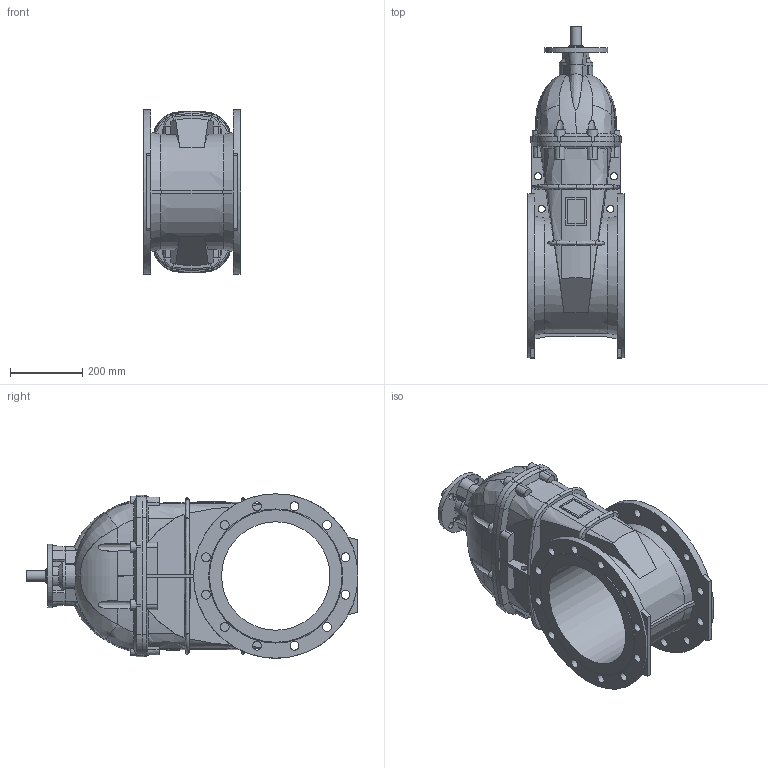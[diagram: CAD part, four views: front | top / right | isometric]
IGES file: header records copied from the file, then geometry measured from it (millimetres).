
Start section: SolidWorks IGES file using analytic representation for surfaces
Global section: file name: D:\Arthur\For Will\Finished\O_15_42_DN300 without AUMA\O_15_42_DN300_00_iges.IGS; native system: SolidWorks 2012; preprocessor: SolidWorks 2012; author: aran; date: 150521.100918; units: millimetre
Bounding box: 270 x 918.5 x 455 mm (x, y, z)
Surface area: 1568539.4 mm2 (no closed solid volume)
Topology: 0 solids, 0 shells, 472 faces, 2636 edges, 2550 vertices
Faces by surface type: revolution 266, bspline 206
